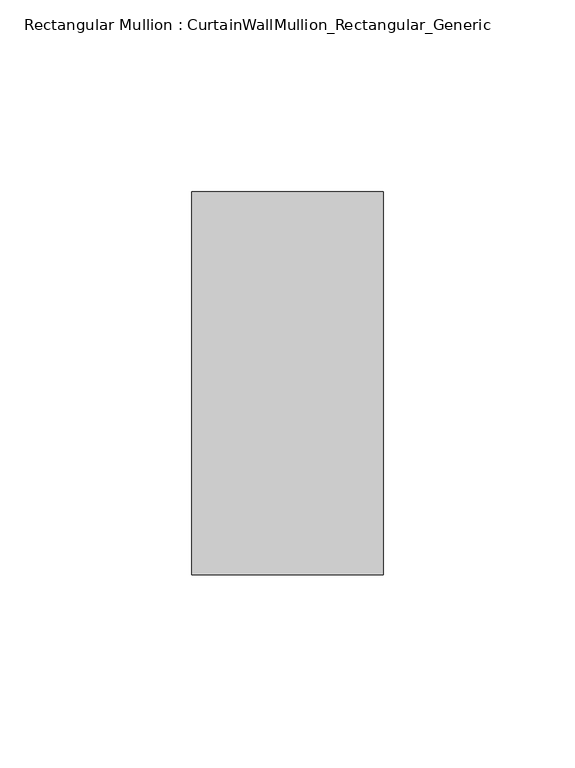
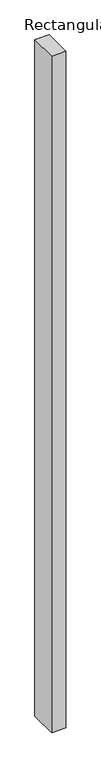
"""IFC4 building model written with IfcOpenShell, lengths in millimetres: member geometry, Rectangular Mullion : CurtainWallMullion_Rectangular_Generic."""

from ifc_helpers import new_model, si_unit, frame, origin, place, context, project, spatial, polyline, outline, extrude, source, transform, mapped, element, save


def rectangular_mullion_curtainwallmullion_rectangular_generic_83e55909(model_context):
    return source(origin(), model_context, "Body", "SweptSolid", [
        extrude(outline(polyline([(0.0, 50.0), (0.0, -50.0), (-50.0, -50.0), (-50.0, 50.0), (0.0, 50.0)])), frame((0.0, 0.0, -2486.7), z_axis=(0.0, 0.0, 1.0), x_axis=(1.0, 0.0, 0.0)), (0.0, 0.0, 1.0), 2486.7),
    ])


if __name__ == "__main__":
    model = new_model("IFC4")
    model_context = context("Model", 3, world=origin())
    ifc_project = project(units=[si_unit("LENGTHUNIT", "METRE", prefix="MILLI")], contexts=[model_context])
    site = spatial("IfcSite", under=ifc_project)
    building = spatial("IfcBuilding", under=site)
    placement = place(None, origin())
    rectangular_mullion_curtainwallmullion_rectangular_generic_shape = rectangular_mullion_curtainwallmullion_rectangular_generic_83e55909(model_context)
    element("IfcMember", 1, ObjectType="Rectangular Mullion : CurtainWallMullion_Rectangular_Generic", at=placement, inside=building, context=model_context, shape_type="MappedRepresentation", body=[
        mapped(rectangular_mullion_curtainwallmullion_rectangular_generic_shape, transform((0.0, 0.0, 0.0), x_axis=(1.0, 0.0, 0.0), y_axis=(0.0, 1.0, 0.0), z_axis=(0.0, 0.0, 1.0))),
    ])
    save(model, "model.ifc")
